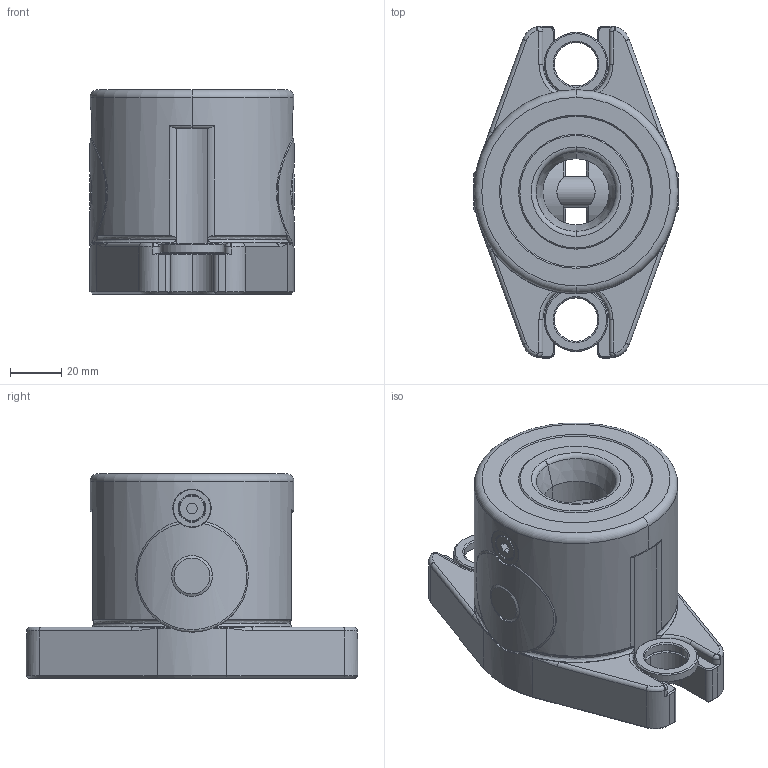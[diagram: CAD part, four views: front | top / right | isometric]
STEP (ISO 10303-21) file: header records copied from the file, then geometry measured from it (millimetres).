
FILE_DESCRIPTION (( 'STEP AP203' ), '1' );
FILE_NAME ('cp150-16080.STEP', '2021-10-25T23:52:27', ( '' ), ( '' ), 'SwSTEP 2.0', 'SolidWorks 2020', '' );
FILE_SCHEMA (( 'CONFIG_CONTROL_DESIGN' ));
Length unit declared in the file: millimetre
Products named in the file (7): cp150-16080_06; cp150-16080_01; cp150-16080_03; cp150-16080_05; cp150-16080; cp150-16080_02; cp150-16080_04
Assembly tree (6 placements, depth 2):
  cp150-16080
    cp150-16080_01
    cp150-16080_02
    cp150-16080_03
    cp150-16080_04
    cp150-16080_05
    cp150-16080_06
Bounding box: 80 x 130 x 80 mm (x, y, z)
Volume: 394006.1 mm3; surface area: 70594.9 mm2
Topology: 6 solids, 6 shells, 368 faces, 877 edges, 538 vertices
Faces by surface type: cylinder 114, plane 103, cone 92, torus 51, bspline 8
Entity records: 14352 total; most frequent: CARTESIAN_POINT 5077, DIRECTION 1868, ORIENTED_EDGE 1754, EDGE_CURVE 877, AXIS2_PLACEMENT_3D 758, VERTEX_POINT 538, EDGE_LOOP 399, CIRCLE 389
